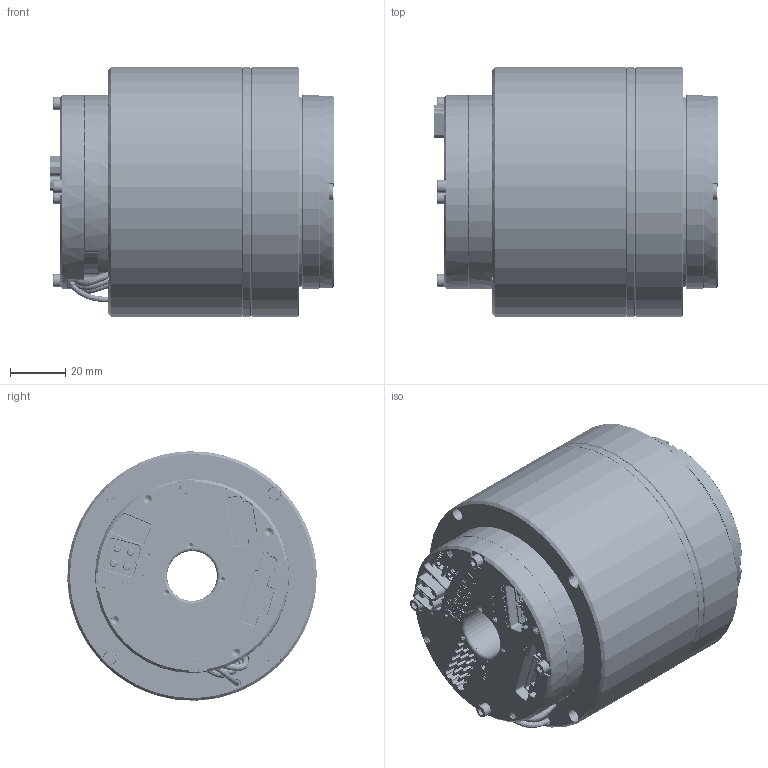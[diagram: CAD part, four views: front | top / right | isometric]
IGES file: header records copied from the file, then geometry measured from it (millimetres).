
Start section: SolidWorks IGES file using analytic representation for surfaces
Global section: file name: 45HG:\李鸿彬\解密模型20240411\官网更新整理\I型\eRob90 I型\eRob90 I型（V3）\eRob90H××I-XX-18EX_V3_MC2A.BX.XX\eRob90H××I-XX-18EX_V3_MC2A.BX.XX.igs; native system: SolidWorks 2021; preprocessor: SolidWorks 2021; author: ZERO; date: 240411.104921; units: millimetre
Bounding box: 102.3 x 90 x 90 mm (x, y, z)
Surface area: 59849.6 mm2 (no closed solid volume)
Topology: 0 solids, 0 shells, 4561 faces, 56746 edges, 56680 vertices
Faces by surface type: bspline 2889, revolution 1672
